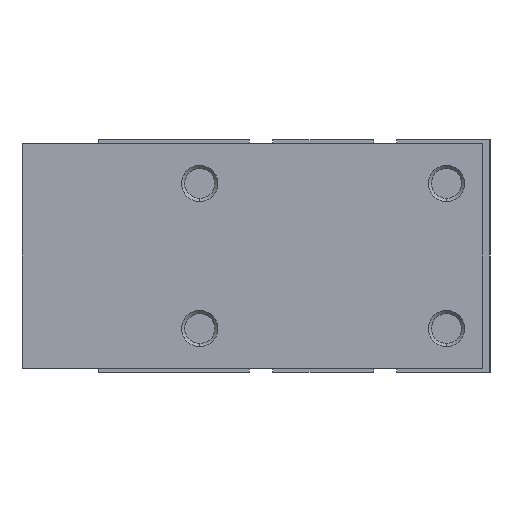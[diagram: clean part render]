
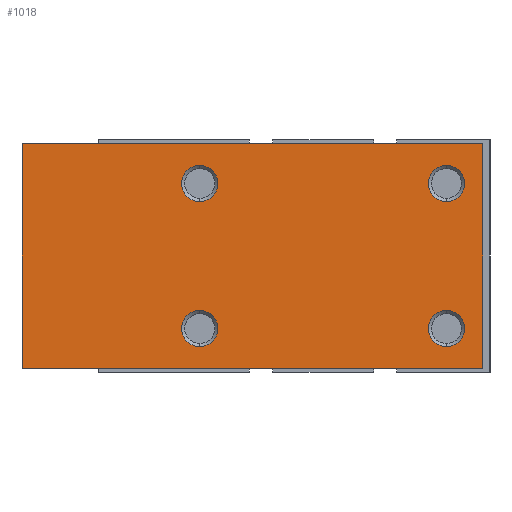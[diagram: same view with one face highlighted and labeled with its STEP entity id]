
A CAD part, left-side view. The second image highlights one B-rep face of the part: STEP entity #1018.
In plain terms, the highlighted planar face has unit normal (-1, 0, 0).
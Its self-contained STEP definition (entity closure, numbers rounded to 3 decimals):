
#20 = CARTESIAN_POINT ( 'NONE',  ( -15.5, 17., -12.5 ) ) ;
#41 = FACE_OUTER_BOUND ( 'NONE', #2398, .T. ) ;
#135 = DIRECTION ( 'NONE',  ( 0., 1., 0. ) ) ;
#139 = ORIENTED_EDGE ( 'NONE', *, *, #3264, .F. ) ;
#182 = VECTOR ( 'NONE', #1150, 1000. ) ;
#189 = CARTESIAN_POINT ( 'NONE',  ( -15.5, -17., 10. ) ) ;
#197 = CARTESIAN_POINT ( 'NONE',  ( -15.5, 17., 12.5 ) ) ;
#208 = LINE ( 'NONE', #3903, #182 ) ;
#351 = VECTOR ( 'NONE', #448, 1000. ) ;
#438 = DIRECTION ( 'NONE',  ( -1., 0., 0. ) ) ;
#448 = DIRECTION ( 'NONE',  ( 0., -1., 0. ) ) ;
#547 = VERTEX_POINT ( 'NONE', #5570 ) ;
#810 = CIRCLE ( 'NONE', #5201, 2.5 ) ;
#838 = CARTESIAN_POINT ( 'NONE',  ( -15.5, 41.5, -15.5 ) ) ;
#857 = CARTESIAN_POINT ( 'NONE',  ( -15.5, 17., 10. ) ) ;
#919 = DIRECTION ( 'NONE',  ( 0., 0., 1. ) ) ;
#970 = CARTESIAN_POINT ( 'NONE',  ( -15.5, -22., 15.5 ) ) ;
#999 = DIRECTION ( 'NONE',  ( 0., 0., 1. ) ) ;
#1018 = ADVANCED_FACE ( 'NONE', ( #41, #3799, #1471, #3332, #1020 ), #2877, .F. ) ;
#1020 = FACE_BOUND ( 'NONE', #1049, .T. ) ;
#1049 = EDGE_LOOP ( 'NONE', ( #2021, #1538 ) ) ;
#1062 = DIRECTION ( 'NONE',  ( 0., 0., -1. ) ) ;
#1068 = DIRECTION ( 'NONE',  ( -1., 0., 0. ) ) ;
#1081 = ORIENTED_EDGE ( 'NONE', *, *, #1952, .T. ) ;
#1093 = ORIENTED_EDGE ( 'NONE', *, *, #5896, .F. ) ;
#1150 = DIRECTION ( 'NONE',  ( 0., 0., -1. ) ) ;
#1179 = LINE ( 'NONE', #4073, #2083 ) ;
#1290 = AXIS2_PLACEMENT_3D ( 'NONE', #5615, #4686, #999 ) ;
#1293 = VECTOR ( 'NONE', #1062, 1000. ) ;
#1306 = AXIS2_PLACEMENT_3D ( 'NONE', #4735, #4276, #135 ) ;
#1340 = CARTESIAN_POINT ( 'NONE',  ( -15.5, -17., -12.5 ) ) ;
#1369 = CIRCLE ( 'NONE', #5857, 2.5 ) ;
#1410 = CARTESIAN_POINT ( 'NONE',  ( -15.5, -22., -15.5 ) ) ;
#1471 = FACE_BOUND ( 'NONE', #2718, .T. ) ;
#1538 = ORIENTED_EDGE ( 'NONE', *, *, #5199, .F. ) ;
#1697 = EDGE_CURVE ( 'NONE', #4924, #4484, #1873, .T. ) ;
#1730 = DIRECTION ( 'NONE',  ( 0., 0., 1. ) ) ;
#1801 = VERTEX_POINT ( 'NONE', #20 ) ;
#1844 = LINE ( 'NONE', #2565, #351 ) ;
#1873 = CIRCLE ( 'NONE', #1290, 2.5 ) ;
#1876 = CARTESIAN_POINT ( 'NONE',  ( -15.5, -17., -10. ) ) ;
#1941 = EDGE_CURVE ( 'NONE', #5724, #5222, #4289, .T. ) ;
#1948 = DIRECTION ( 'NONE',  ( -1., 0., 0. ) ) ;
#1952 = EDGE_CURVE ( 'NONE', #2371, #5222, #1179, .T. ) ;
#1978 = CARTESIAN_POINT ( 'NONE',  ( -15.5, -22., 15.5 ) ) ;
#2021 = ORIENTED_EDGE ( 'NONE', *, *, #1697, .F. ) ;
#2046 = DIRECTION ( 'NONE',  ( -1., 0., 0. ) ) ;
#2083 = VECTOR ( 'NONE', #3120, 1000. ) ;
#2152 = CIRCLE ( 'NONE', #5765, 2.5 ) ;
#2253 = CARTESIAN_POINT ( 'NONE',  ( -15.5, 41.5, 15.5 ) ) ;
#2264 = AXIS2_PLACEMENT_3D ( 'NONE', #857, #438, #919 ) ;
#2355 = EDGE_CURVE ( 'NONE', #4382, #5724, #1844, .T. ) ;
#2371 = VERTEX_POINT ( 'NONE', #838 ) ;
#2380 = CARTESIAN_POINT ( 'NONE',  ( -15.5, -17., 10. ) ) ;
#2398 = EDGE_LOOP ( 'NONE', ( #1081, #5899, #2880, #3400 ) ) ;
#2507 = CARTESIAN_POINT ( 'NONE',  ( -15.5, 17., -10. ) ) ;
#2523 = CIRCLE ( 'NONE', #5926, 2.5 ) ;
#2565 = CARTESIAN_POINT ( 'NONE',  ( -15.5, 41.5, 15.5 ) ) ;
#2653 = VERTEX_POINT ( 'NONE', #3502 ) ;
#2718 = EDGE_LOOP ( 'NONE', ( #4906, #139 ) ) ;
#2877 = PLANE ( 'NONE',  #1306 ) ;
#2880 = ORIENTED_EDGE ( 'NONE', *, *, #2355, .F. ) ;
#2956 = DIRECTION ( 'NONE',  ( 0., 0., 1. ) ) ;
#3120 = DIRECTION ( 'NONE',  ( 0., -1., 0. ) ) ;
#3264 = EDGE_CURVE ( 'NONE', #2653, #4240, #5184, .T. ) ;
#3277 = EDGE_CURVE ( 'NONE', #3381, #1801, #1369, .T. ) ;
#3332 = FACE_BOUND ( 'NONE', #5885, .T. ) ;
#3381 = VERTEX_POINT ( 'NONE', #4449 ) ;
#3400 = ORIENTED_EDGE ( 'NONE', *, *, #3819, .T. ) ;
#3502 = CARTESIAN_POINT ( 'NONE',  ( -15.5, -17., 7.5 ) ) ;
#3799 = FACE_BOUND ( 'NONE', #4445, .T. ) ;
#3819 = EDGE_CURVE ( 'NONE', #4382, #2371, #208, .T. ) ;
#3823 = CIRCLE ( 'NONE', #5173, 2.5 ) ;
#3842 = DIRECTION ( 'NONE',  ( -1., 0., 0. ) ) ;
#3903 = CARTESIAN_POINT ( 'NONE',  ( -15.5, 41.5, 15.5 ) ) ;
#4056 = DIRECTION ( 'NONE',  ( -1., 0., 0. ) ) ;
#4073 = CARTESIAN_POINT ( 'NONE',  ( -15.5, 41.5, -15.5 ) ) ;
#4096 = EDGE_CURVE ( 'NONE', #4448, #547, #2523, .T. ) ;
#4167 = CARTESIAN_POINT ( 'NONE',  ( -15.5, -17., -10. ) ) ;
#4240 = VERTEX_POINT ( 'NONE', #4406 ) ;
#4256 = DIRECTION ( 'NONE',  ( 0., 0., 1. ) ) ;
#4276 = DIRECTION ( 'NONE',  ( 1., 0., 0. ) ) ;
#4289 = LINE ( 'NONE', #1978, #1293 ) ;
#4382 = VERTEX_POINT ( 'NONE', #2253 ) ;
#4406 = CARTESIAN_POINT ( 'NONE',  ( -15.5, -17., 12.5 ) ) ;
#4445 = EDGE_LOOP ( 'NONE', ( #5988, #1093 ) ) ;
#4448 = VERTEX_POINT ( 'NONE', #1340 ) ;
#4449 = CARTESIAN_POINT ( 'NONE',  ( -15.5, 17., -7.5 ) ) ;
#4484 = VERTEX_POINT ( 'NONE', #4962 ) ;
#4686 = DIRECTION ( 'NONE',  ( -1., 0., 0. ) ) ;
#4735 = CARTESIAN_POINT ( 'NONE',  ( -15.5, 41.5, 15.5 ) ) ;
#4870 = CARTESIAN_POINT ( 'NONE',  ( -15.5, 17., -10. ) ) ;
#4892 = CIRCLE ( 'NONE', #2264, 2.5 ) ;
#4906 = ORIENTED_EDGE ( 'NONE', *, *, #5731, .F. ) ;
#4912 = ORIENTED_EDGE ( 'NONE', *, *, #4096, .F. ) ;
#4924 = VERTEX_POINT ( 'NONE', #197 ) ;
#4962 = CARTESIAN_POINT ( 'NONE',  ( -15.5, 17., 7.5 ) ) ;
#5154 = DIRECTION ( 'NONE',  ( 0., 0., 1. ) ) ;
#5173 = AXIS2_PLACEMENT_3D ( 'NONE', #2380, #1948, #2956 ) ;
#5184 = CIRCLE ( 'NONE', #5475, 2.5 ) ;
#5199 = EDGE_CURVE ( 'NONE', #4484, #4924, #4892, .T. ) ;
#5201 = AXIS2_PLACEMENT_3D ( 'NONE', #4870, #5854, #5830 ) ;
#5222 = VERTEX_POINT ( 'NONE', #1410 ) ;
#5475 = AXIS2_PLACEMENT_3D ( 'NONE', #189, #1068, #5742 ) ;
#5570 = CARTESIAN_POINT ( 'NONE',  ( -15.5, -17., -7.5 ) ) ;
#5615 = CARTESIAN_POINT ( 'NONE',  ( -15.5, 17., 10. ) ) ;
#5716 = EDGE_CURVE ( 'NONE', #547, #4448, #2152, .T. ) ;
#5724 = VERTEX_POINT ( 'NONE', #970 ) ;
#5731 = EDGE_CURVE ( 'NONE', #4240, #2653, #3823, .T. ) ;
#5742 = DIRECTION ( 'NONE',  ( 0., 0., 1. ) ) ;
#5765 = AXIS2_PLACEMENT_3D ( 'NONE', #4167, #4056, #1730 ) ;
#5830 = DIRECTION ( 'NONE',  ( 0., 0., 1. ) ) ;
#5854 = DIRECTION ( 'NONE',  ( -1., 0., 0. ) ) ;
#5857 = AXIS2_PLACEMENT_3D ( 'NONE', #2507, #2046, #5154 ) ;
#5885 = EDGE_LOOP ( 'NONE', ( #5978, #4912 ) ) ;
#5896 = EDGE_CURVE ( 'NONE', #1801, #3381, #810, .T. ) ;
#5899 = ORIENTED_EDGE ( 'NONE', *, *, #1941, .F. ) ;
#5926 = AXIS2_PLACEMENT_3D ( 'NONE', #1876, #3842, #4256 ) ;
#5978 = ORIENTED_EDGE ( 'NONE', *, *, #5716, .F. ) ;
#5988 = ORIENTED_EDGE ( 'NONE', *, *, #3277, .F. ) ;
